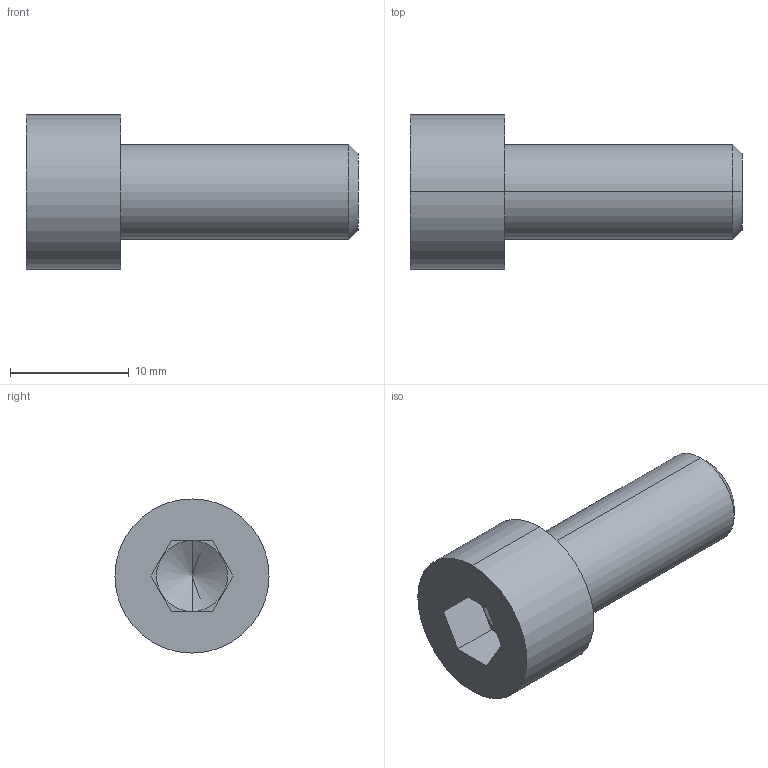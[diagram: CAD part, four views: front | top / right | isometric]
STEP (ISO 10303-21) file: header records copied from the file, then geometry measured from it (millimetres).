
FILE_DESCRIPTION (( 'STEP AP214' ), '1' );
FILE_NAME ('M8x20_DIN912.STEP', '2016-05-16T06:33:47', ( '' ), ( '' ), 'SwSTEP 2.0', 'SolidWorks 2014', '' );
FILE_SCHEMA (( 'AUTOMOTIVE_DESIGN' ));
Length unit declared in the file: millimetre
Products named in the file (1): M8x20_DIN912
Bounding box: 28 x 13 x 13 mm (x, y, z)
Volume: 1919.4 mm3; surface area: 1170.3 mm2
Topology: 1 solids, 1 shells, 18 faces, 40 edges, 25 vertices
Faces by surface type: plane 10, cylinder 4, cone 4
Entity records: 718 total; most frequent: DIRECTION 88, CARTESIAN_POINT 82, ORIENTED_EDGE 76, EDGE_CURVE 38, AXIS2_PLACEMENT_3D 31, VECTOR 26, LINE 26, VERTEX_POINT 25
